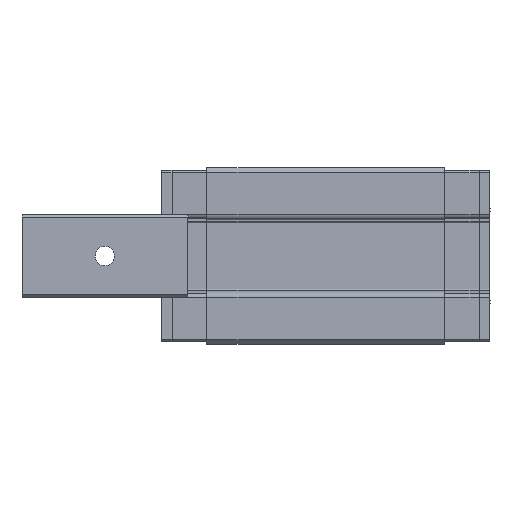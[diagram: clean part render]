
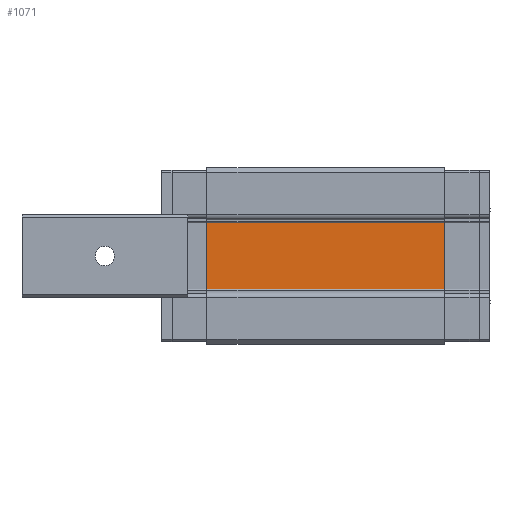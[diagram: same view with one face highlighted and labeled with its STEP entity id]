
A CAD part, front view. The second image highlights one B-rep face of the part: STEP entity #1071.
In plain terms, the highlighted planar face has unit normal (0, -1, 0).
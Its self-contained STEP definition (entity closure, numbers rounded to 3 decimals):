
#1071 = ADVANCED_FACE( '', ( #2162 ), #2163, .T. );
#2162 = FACE_OUTER_BOUND( '', #3279, .T. );
#2163 = PLANE( '', #3280 );
#3279 = EDGE_LOOP( '', ( #6177, #6178, #6179, #6180 ) );
#3280 = AXIS2_PLACEMENT_3D( '', #6181, #6182, #6183 );
#6177 = ORIENTED_EDGE( '', *, *, #7841, .F. );
#6178 = ORIENTED_EDGE( '', *, *, #7015, .F. );
#6179 = ORIENTED_EDGE( '', *, *, #7961, .T. );
#6180 = ORIENTED_EDGE( '', *, *, #7241, .T. );
#6181 = CARTESIAN_POINT( '', ( 21.5, 6., -7.05 ) );
#6182 = DIRECTION( '', ( 0., -1., 0. ) );
#6183 = DIRECTION( '', ( 0., 0., -1. ) );
#7015 = EDGE_CURVE( '', #8504, #8500, #8506, .T. );
#7241 = EDGE_CURVE( '', #8876, #8873, #8877, .T. );
#7841 = EDGE_CURVE( '', #8500, #8873, #9742, .T. );
#7961 = EDGE_CURVE( '', #8504, #8876, #9877, .T. );
#8500 = VERTEX_POINT( '', #10598 );
#8504 = VERTEX_POINT( '', #10604 );
#8506 = LINE( '', #10607, #10608 );
#8873 = VERTEX_POINT( '', #11136 );
#8876 = VERTEX_POINT( '', #11140 );
#8877 = LINE( '', #11141, #11142 );
#9742 = LINE( '', #12376, #12377 );
#9877 = LINE( '', #12561, #12562 );
#10598 = CARTESIAN_POINT( '', ( -21.5, 6., -7.05 ) );
#10604 = CARTESIAN_POINT( '', ( 21.5, 6., -7.05 ) );
#10607 = CARTESIAN_POINT( '', ( 21.5, 6., -7.05 ) );
#10608 = VECTOR( '', #12957, 1000. );
#11136 = CARTESIAN_POINT( '', ( -21.5, 6., 7.05 ) );
#11140 = CARTESIAN_POINT( '', ( 21.5, 6., 7.05 ) );
#11141 = CARTESIAN_POINT( '', ( 21.5, 6., 7.05 ) );
#11142 = VECTOR( '', #13220, 1000. );
#12376 = CARTESIAN_POINT( '', ( -21.5, 6., -7.05 ) );
#12377 = VECTOR( '', #13815, 1000. );
#12561 = CARTESIAN_POINT( '', ( 21.5, 6., -7.05 ) );
#12562 = VECTOR( '', #13913, 1000. );
#12957 = DIRECTION( '', ( -1., 0., 0. ) );
#13220 = DIRECTION( '', ( -1., 0., 0. ) );
#13815 = DIRECTION( '', ( 0., 0., 1. ) );
#13913 = DIRECTION( '', ( 0., 0., 1. ) );
